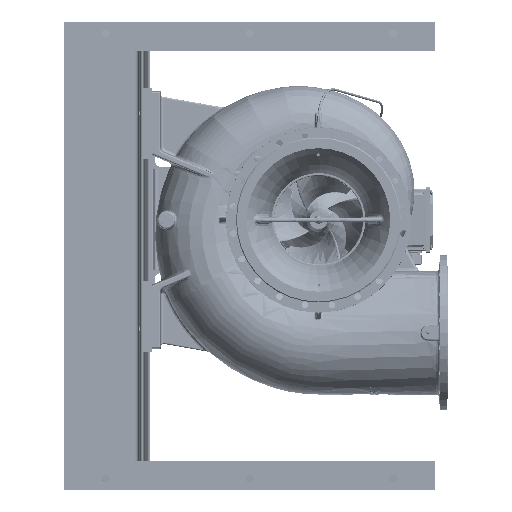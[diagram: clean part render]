
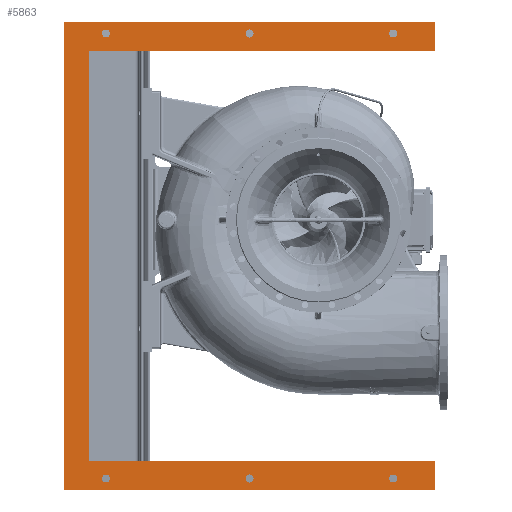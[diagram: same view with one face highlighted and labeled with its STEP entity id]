
A CAD part, front view. The second image highlights one B-rep face of the part: STEP entity #5863.
In plain terms, the highlighted planar face has unit normal (0, -1, 0) as drawn and (0, 0, 1) by its records, which use the part's own axes.
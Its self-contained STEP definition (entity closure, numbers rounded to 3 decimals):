
#20=DIRECTION('',(1.,0.,0.));
#21=VECTOR('',#20,100.);
#22=CARTESIAN_POINT('',(-815.,-645.,150.));
#23=LINE('',#22,#21);
#62=DIRECTION('',(1.,0.,0.));
#63=VECTOR('',#62,100.);
#64=CARTESIAN_POINT('',(715.,-645.,150.));
#65=LINE('',#64,#63);
#476=CARTESIAN_POINT('',(775.,-500.,150.));
#477=DIRECTION('',(0.,0.,-1.));
#478=DIRECTION('',(-1.,0.,0.));
#479=AXIS2_PLACEMENT_3D('',#476,#477,#478);
#481=CARTESIAN_POINT('',(775.,-500.,150.));
#482=DIRECTION('',(0.,0.,-1.));
#483=DIRECTION('',(1.,0.,0.));
#484=AXIS2_PLACEMENT_3D('',#481,#482,#483);
#486=CARTESIAN_POINT('',(775.,0.,150.));
#487=DIRECTION('',(0.,0.,-1.));
#488=DIRECTION('',(-1.,0.,0.));
#489=AXIS2_PLACEMENT_3D('',#486,#487,#488);
#491=CARTESIAN_POINT('',(775.,0.,150.));
#492=DIRECTION('',(0.,0.,-1.));
#493=DIRECTION('',(1.,0.,0.));
#494=AXIS2_PLACEMENT_3D('',#491,#492,#493);
#496=CARTESIAN_POINT('',(775.,500.,150.));
#497=DIRECTION('',(0.,0.,-1.));
#498=DIRECTION('',(-1.,0.,0.));
#499=AXIS2_PLACEMENT_3D('',#496,#497,#498);
#501=CARTESIAN_POINT('',(775.,500.,150.));
#502=DIRECTION('',(0.,0.,-1.));
#503=DIRECTION('',(1.,0.,0.));
#504=AXIS2_PLACEMENT_3D('',#501,#502,#503);
#506=CARTESIAN_POINT('',(-775.,500.,150.));
#507=DIRECTION('',(0.,0.,-1.));
#508=DIRECTION('',(-1.,0.,0.));
#509=AXIS2_PLACEMENT_3D('',#506,#507,#508);
#511=CARTESIAN_POINT('',(-775.,500.,150.));
#512=DIRECTION('',(0.,0.,-1.));
#513=DIRECTION('',(1.,0.,0.));
#514=AXIS2_PLACEMENT_3D('',#511,#512,#513);
#516=CARTESIAN_POINT('',(-775.,0.,150.));
#517=DIRECTION('',(0.,0.,-1.));
#518=DIRECTION('',(-1.,0.,0.));
#519=AXIS2_PLACEMENT_3D('',#516,#517,#518);
#521=CARTESIAN_POINT('',(-775.,0.,150.));
#522=DIRECTION('',(0.,0.,-1.));
#523=DIRECTION('',(1.,0.,0.));
#524=AXIS2_PLACEMENT_3D('',#521,#522,#523);
#526=CARTESIAN_POINT('',(-775.,-500.,150.));
#527=DIRECTION('',(0.,0.,-1.));
#528=DIRECTION('',(-1.,0.,0.));
#529=AXIS2_PLACEMENT_3D('',#526,#527,#528);
#531=CARTESIAN_POINT('',(-775.,-500.,150.));
#532=DIRECTION('',(0.,0.,-1.));
#533=DIRECTION('',(1.,0.,0.));
#534=AXIS2_PLACEMENT_3D('',#531,#532,#533);
#536=DIRECTION('',(1.,0.,0.));
#537=VECTOR('',#536,1630.);
#538=CARTESIAN_POINT('',(-815.,645.,150.));
#539=LINE('',#538,#537);
#540=DIRECTION('',(0.,1.,0.));
#541=VECTOR('',#540,1205.);
#542=CARTESIAN_POINT('',(715.,-645.,150.));
#543=LINE('',#542,#541);
#544=DIRECTION('',(0.,1.,0.));
#545=VECTOR('',#544,1290.);
#546=CARTESIAN_POINT('',(-815.,-645.,150.));
#547=LINE('',#546,#545);
#1278=DIRECTION('',(0.,1.,0.));
#1279=VECTOR('',#1278,1205.);
#1280=CARTESIAN_POINT('',(-715.,-645.,150.));
#1281=LINE('',#1280,#1279);
#4250=DIRECTION('',(1.,0.,0.));
#4251=VECTOR('',#4250,1430.);
#4252=CARTESIAN_POINT('',(-715.,560.,150.));
#4253=LINE('',#4252,#4251);
#4254=DIRECTION('',(0.,1.,0.));
#4255=VECTOR('',#4254,1290.);
#4256=CARTESIAN_POINT('',(815.,-645.,150.));
#4257=LINE('',#4256,#4255);
#4299=CARTESIAN_POINT('',(-815.,-645.,150.));
#4301=VERTEX_POINT('',#4299);
#4302=CARTESIAN_POINT('',(-715.,-645.,150.));
#4303=VERTEX_POINT('',#4302);
#4310=CARTESIAN_POINT('',(715.,-645.,150.));
#4311=VERTEX_POINT('',#4310);
#4312=CARTESIAN_POINT('',(815.,-645.,150.));
#4313=VERTEX_POINT('',#4312);
#4334=CARTESIAN_POINT('',(-815.,645.,150.));
#4335=VERTEX_POINT('',#4334);
#4336=CARTESIAN_POINT('',(815.,645.,150.));
#4338=VERTEX_POINT('',#4336);
#4468=CARTESIAN_POINT('',(-789.,500.,150.));
#4469=CARTESIAN_POINT('',(-761.,500.,150.));
#4470=VERTEX_POINT('',#4468);
#4471=VERTEX_POINT('',#4469);
#4474=CARTESIAN_POINT('',(-789.,0.,150.));
#4475=CARTESIAN_POINT('',(-761.,0.,150.));
#4476=VERTEX_POINT('',#4474);
#4477=VERTEX_POINT('',#4475);
#4480=CARTESIAN_POINT('',(-789.,-500.,150.));
#4481=CARTESIAN_POINT('',(-761.,-500.,150.));
#4482=VERTEX_POINT('',#4480);
#4483=VERTEX_POINT('',#4481);
#4484=CARTESIAN_POINT('',(761.,500.,150.));
#4485=CARTESIAN_POINT('',(789.,500.,150.));
#4486=VERTEX_POINT('',#4484);
#4487=VERTEX_POINT('',#4485);
#4490=CARTESIAN_POINT('',(761.,0.,150.));
#4491=CARTESIAN_POINT('',(789.,0.,150.));
#4492=VERTEX_POINT('',#4490);
#4493=VERTEX_POINT('',#4491);
#4496=CARTESIAN_POINT('',(761.,-500.,150.));
#4497=CARTESIAN_POINT('',(789.,-500.,150.));
#4498=VERTEX_POINT('',#4496);
#4499=VERTEX_POINT('',#4497);
#5239=CARTESIAN_POINT('',(-715.,560.,150.));
#5241=VERTEX_POINT('',#5239);
#5261=CARTESIAN_POINT('',(715.,560.,150.));
#5263=VERTEX_POINT('',#5261);
#5808=CARTESIAN_POINT('',(-815.,-645.,150.));
#5809=DIRECTION('',(0.,0.,1.));
#5810=DIRECTION('',(1.,0.,0.));
#5811=AXIS2_PLACEMENT_3D('',#5808,#5809,#5810);
#5812=PLANE('',#5811);
#5814=ORIENTED_EDGE('',*,*,#5813,.T.);
#5816=ORIENTED_EDGE('',*,*,#5815,.F.);
#5817=ORIENTED_EDGE('',*,*,#5410,.F.);
#5819=ORIENTED_EDGE('',*,*,#5818,.T.);
#5821=ORIENTED_EDGE('',*,*,#5820,.F.);
#5823=ORIENTED_EDGE('',*,*,#5822,.F.);
#5824=ORIENTED_EDGE('',*,*,#5376,.F.);
#5826=ORIENTED_EDGE('',*,*,#5825,.T.);
#5827=EDGE_LOOP('',(#5814,#5816,#5817,#5819,#5821,#5823,#5824,#5826));
#5828=FACE_OUTER_BOUND('',#5827,.F.);
#5830=ORIENTED_EDGE('',*,*,#5829,.F.);
#5832=ORIENTED_EDGE('',*,*,#5831,.F.);
#5833=EDGE_LOOP('',(#5830,#5832));
#5834=FACE_BOUND('',#5833,.F.);
#5836=ORIENTED_EDGE('',*,*,#5835,.F.);
#5838=ORIENTED_EDGE('',*,*,#5837,.F.);
#5839=EDGE_LOOP('',(#5836,#5838));
#5840=FACE_BOUND('',#5839,.F.);
#5841=ORIENTED_EDGE('',*,*,#5788,.F.);
#5842=ORIENTED_EDGE('',*,*,#5802,.F.);
#5843=EDGE_LOOP('',(#5841,#5842));
#5844=FACE_BOUND('',#5843,.F.);
#5846=ORIENTED_EDGE('',*,*,#5845,.F.);
#5848=ORIENTED_EDGE('',*,*,#5847,.F.);
#5849=EDGE_LOOP('',(#5846,#5848));
#5850=FACE_BOUND('',#5849,.F.);
#5852=ORIENTED_EDGE('',*,*,#5851,.F.);
#5854=ORIENTED_EDGE('',*,*,#5853,.F.);
#5855=EDGE_LOOP('',(#5852,#5854));
#5856=FACE_BOUND('',#5855,.F.);
#5858=ORIENTED_EDGE('',*,*,#5857,.F.);
#5860=ORIENTED_EDGE('',*,*,#5859,.F.);
#5861=EDGE_LOOP('',(#5858,#5860));
#5862=FACE_BOUND('',#5861,.F.);
#5863=ADVANCED_FACE('',(#5828,#5834,#5840,#5844,#5850,#5856,#5862),#5812,.T.);
#480=CIRCLE('',#479,14.);
#485=CIRCLE('',#484,14.);
#490=CIRCLE('',#489,14.);
#495=CIRCLE('',#494,14.);
#500=CIRCLE('',#499,14.);
#505=CIRCLE('',#504,14.);
#510=CIRCLE('',#509,14.);
#515=CIRCLE('',#514,14.);
#520=CIRCLE('',#519,14.);
#525=CIRCLE('',#524,14.);
#530=CIRCLE('',#529,14.);
#535=CIRCLE('',#534,14.);
#5376=EDGE_CURVE('',#4301,#4303,#23,.T.);
#5410=EDGE_CURVE('',#4311,#4313,#65,.T.);
#5788=EDGE_CURVE('',#4470,#4471,#510,.T.);
#5802=EDGE_CURVE('',#4471,#4470,#515,.T.);
#5813=EDGE_CURVE('',#4335,#4338,#539,.T.);
#5815=EDGE_CURVE('',#4313,#4338,#4257,.T.);
#5818=EDGE_CURVE('',#4311,#5263,#543,.T.);
#5820=EDGE_CURVE('',#5241,#5263,#4253,.T.);
#5822=EDGE_CURVE('',#4303,#5241,#1281,.T.);
#5825=EDGE_CURVE('',#4301,#4335,#547,.T.);
#5829=EDGE_CURVE('',#4492,#4493,#490,.T.);
#5831=EDGE_CURVE('',#4493,#4492,#495,.T.);
#5835=EDGE_CURVE('',#4486,#4487,#500,.T.);
#5837=EDGE_CURVE('',#4487,#4486,#505,.T.);
#5845=EDGE_CURVE('',#4476,#4477,#520,.T.);
#5847=EDGE_CURVE('',#4477,#4476,#525,.T.);
#5851=EDGE_CURVE('',#4482,#4483,#530,.T.);
#5853=EDGE_CURVE('',#4483,#4482,#535,.T.);
#5857=EDGE_CURVE('',#4498,#4499,#480,.T.);
#5859=EDGE_CURVE('',#4499,#4498,#485,.T.);
